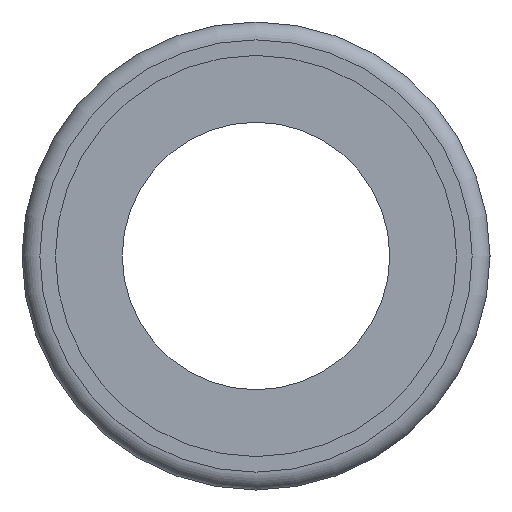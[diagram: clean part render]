
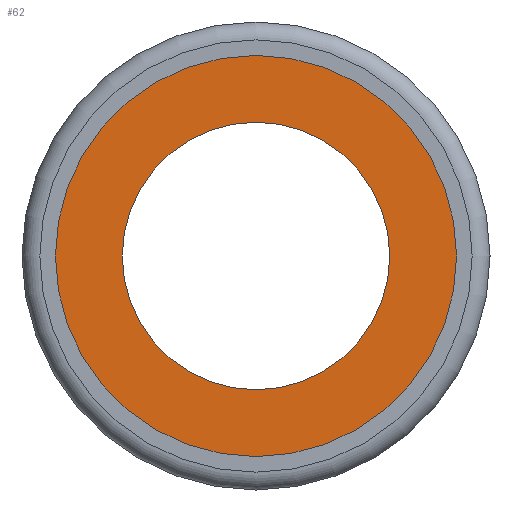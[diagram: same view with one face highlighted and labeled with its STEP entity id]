
A CAD part, left-side view. The second image highlights one B-rep face of the part: STEP entity #62.
In plain terms, the highlighted planar face has unit normal (-1, 0, 0).
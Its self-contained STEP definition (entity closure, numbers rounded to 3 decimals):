
#62 = ADVANCED_FACE( '', ( #135, #136 ), #137, .T. );
#135 = FACE_BOUND( '', #214, .T. );
#136 = FACE_OUTER_BOUND( '', #215, .T. );
#137 = PLANE( '', #216 );
#214 = EDGE_LOOP( '', ( #307 ) );
#215 = EDGE_LOOP( '', ( #308 ) );
#216 = AXIS2_PLACEMENT_3D( '', #309, #310, #311 );
#307 = ORIENTED_EDGE( '', *, *, #359, .F. );
#308 = ORIENTED_EDGE( '', *, *, #364, .T. );
#309 = CARTESIAN_POINT( '', ( 2.85, 7.5, 0. ) );
#310 = DIRECTION( '', ( -1., 0., 0. ) );
#311 = DIRECTION( '', ( 0., 1., 0. ) );
#359 = EDGE_CURVE( '', #398, #398, #399, .T. );
#364 = EDGE_CURVE( '', #406, #406, #407, .T. );
#398 = VERTEX_POINT( '', #452 );
#399 = CIRCLE( '', #453, 6. );
#406 = VERTEX_POINT( '', #460 );
#407 = CIRCLE( '', #461, 9. );
#452 = CARTESIAN_POINT( '', ( 2.85, 0., 6. ) );
#453 = AXIS2_PLACEMENT_3D( '', #507, #508, #509 );
#460 = CARTESIAN_POINT( '', ( 2.85, 0., 9. ) );
#461 = AXIS2_PLACEMENT_3D( '', #516, #517, #518 );
#507 = CARTESIAN_POINT( '', ( 2.85, 0., 0. ) );
#508 = DIRECTION( '', ( -1., 0., 0. ) );
#509 = DIRECTION( '', ( 0., 0., 1. ) );
#516 = CARTESIAN_POINT( '', ( 2.85, 0., 0. ) );
#517 = DIRECTION( '', ( -1., 0., 0. ) );
#518 = DIRECTION( '', ( 0., 0., 1. ) );
